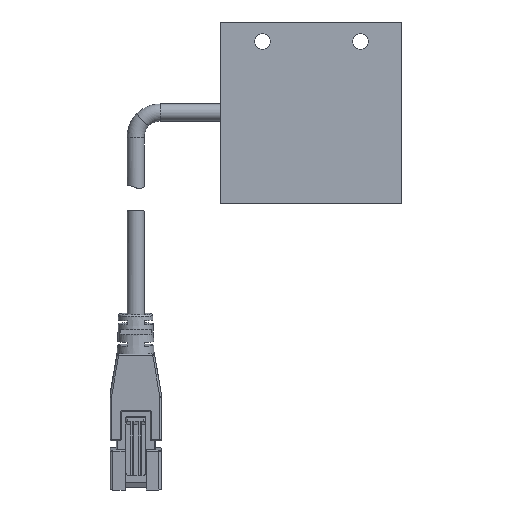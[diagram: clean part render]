
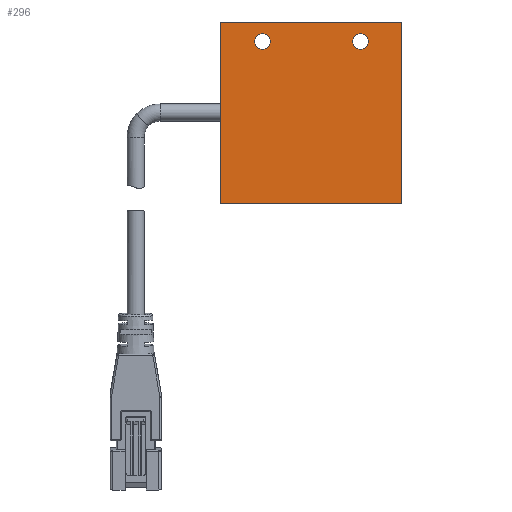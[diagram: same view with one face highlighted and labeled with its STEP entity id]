
A CAD part, front view. The second image highlights one B-rep face of the part: STEP entity #296.
In plain terms, the highlighted planar face has unit normal (0, -1, 0).
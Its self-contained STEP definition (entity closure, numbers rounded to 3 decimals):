
#1=CARTESIAN_POINT('',(10.,0.,14.5));
#2=DIRECTION('',(0.,-1.,0.));
#3=DIRECTION('',(1.,0.,0.));
#4=AXIS2_PLACEMENT_3D('',#1,#2,#3);
#6=CARTESIAN_POINT('',(10.,0.,14.5));
#7=DIRECTION('',(0.,-1.,0.));
#8=DIRECTION('',(-1.,0.,0.));
#9=AXIS2_PLACEMENT_3D('',#6,#7,#8);
#11=CARTESIAN_POINT('',(-10.,0.,14.5));
#12=DIRECTION('',(0.,-1.,0.));
#13=DIRECTION('',(1.,0.,0.));
#14=AXIS2_PLACEMENT_3D('',#11,#12,#13);
#16=CARTESIAN_POINT('',(-10.,0.,14.5));
#17=DIRECTION('',(0.,-1.,0.));
#18=DIRECTION('',(-1.,0.,0.));
#19=AXIS2_PLACEMENT_3D('',#16,#17,#18);
#33=DIRECTION('',(0.,0.,-1.));
#34=VECTOR('',#33,37.);
#35=CARTESIAN_POINT('',(-18.5,0.,18.5));
#36=LINE('',#35,#34);
#47=DIRECTION('',(1.,0.,0.));
#48=VECTOR('',#47,37.);
#49=CARTESIAN_POINT('',(-18.5,0.,-18.5));
#50=LINE('',#49,#48);
#55=DIRECTION('',(0.,0.,1.));
#56=VECTOR('',#55,37.);
#57=CARTESIAN_POINT('',(18.5,0.,-18.5));
#58=LINE('',#57,#56);
#163=DIRECTION('',(-1.,0.,0.));
#164=VECTOR('',#163,37.);
#165=CARTESIAN_POINT('',(18.5,0.,18.5));
#166=LINE('',#165,#164);
#205=CARTESIAN_POINT('',(-18.5,0.,18.5));
#206=CARTESIAN_POINT('',(-18.5,0.,-18.5));
#207=VERTEX_POINT('',#205);
#208=VERTEX_POINT('',#206);
#209=CARTESIAN_POINT('',(18.5,0.,18.5));
#210=VERTEX_POINT('',#209);
#211=CARTESIAN_POINT('',(18.5,0.,-18.5));
#212=VERTEX_POINT('',#211);
#213=CARTESIAN_POINT('',(11.6,0.,14.5));
#214=CARTESIAN_POINT('',(8.4,0.,14.5));
#215=VERTEX_POINT('',#213);
#216=VERTEX_POINT('',#214);
#217=CARTESIAN_POINT('',(-8.4,0.,14.5));
#218=CARTESIAN_POINT('',(-11.6,0.,14.5));
#219=VERTEX_POINT('',#217);
#220=VERTEX_POINT('',#218);
#269=CARTESIAN_POINT('',(0.,0.,0.));
#270=DIRECTION('',(0.,1.,0.));
#271=DIRECTION('',(1.,0.,0.));
#272=AXIS2_PLACEMENT_3D('',#269,#270,#271);
#273=PLANE('',#272);
#275=ORIENTED_EDGE('',*,*,#274,.F.);
#277=ORIENTED_EDGE('',*,*,#276,.F.);
#279=ORIENTED_EDGE('',*,*,#278,.F.);
#281=ORIENTED_EDGE('',*,*,#280,.F.);
#282=EDGE_LOOP('',(#275,#277,#279,#281));
#283=FACE_OUTER_BOUND('',#282,.F.);
#285=ORIENTED_EDGE('',*,*,#284,.T.);
#287=ORIENTED_EDGE('',*,*,#286,.T.);
#288=EDGE_LOOP('',(#285,#287));
#289=FACE_BOUND('',#288,.F.);
#291=ORIENTED_EDGE('',*,*,#290,.T.);
#293=ORIENTED_EDGE('',*,*,#292,.T.);
#294=EDGE_LOOP('',(#291,#293));
#295=FACE_BOUND('',#294,.F.);
#5=CIRCLE('',#4,1.6);
#10=CIRCLE('',#9,1.6);
#15=CIRCLE('',#14,1.6);
#20=CIRCLE('',#19,1.6);
#274=EDGE_CURVE('',#207,#208,#36,.T.);
#276=EDGE_CURVE('',#210,#207,#166,.T.);
#278=EDGE_CURVE('',#212,#210,#58,.T.);
#280=EDGE_CURVE('',#208,#212,#50,.T.);
#284=EDGE_CURVE('',#215,#216,#5,.T.);
#286=EDGE_CURVE('',#216,#215,#10,.T.);
#290=EDGE_CURVE('',#219,#220,#15,.T.);
#292=EDGE_CURVE('',#220,#219,#20,.T.);
#296=ADVANCED_FACE('',(#283,#289,#295),#273,.F.);
